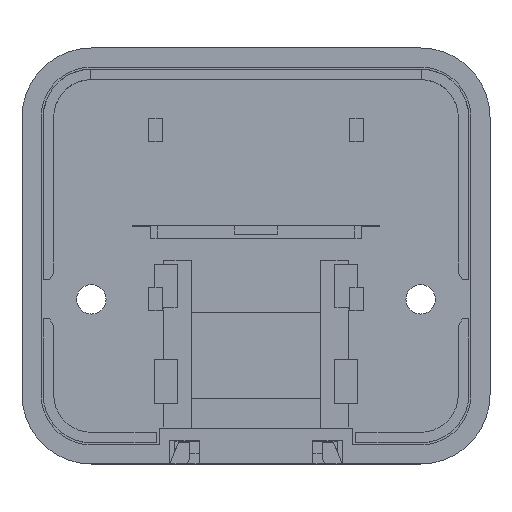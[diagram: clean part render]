
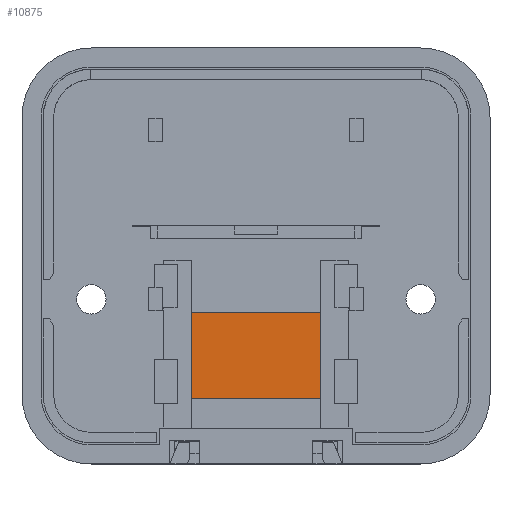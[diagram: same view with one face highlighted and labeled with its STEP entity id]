
A CAD part, top view. The second image highlights one B-rep face of the part: STEP entity #10875.
In plain terms, the highlighted planar face has unit normal (0, 0, 1).
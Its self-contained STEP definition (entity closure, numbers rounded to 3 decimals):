
#3763 = PLANE('',#3764);
#3764 = AXIS2_PLACEMENT_3D('',#3765,#3766,#3767);
#3765 = CARTESIAN_POINT('',(-7.5,-6.5,1.));
#3766 = DIRECTION('',(0.,1.,0.));
#3767 = DIRECTION('',(0.,0.,1.));
#10538 = PLANE('',#10539);
#10539 = AXIS2_PLACEMENT_3D('',#10540,#10541,#10542);
#10540 = CARTESIAN_POINT('',(-7.5,-16.5,1.));
#10541 = DIRECTION('',(0.,1.,0.));
#10542 = DIRECTION('',(0.,0.,1.));
#10553 = EDGE_CURVE('',#10554,#10556,#10558,.T.);
#10554 = VERTEX_POINT('',#10555);
#10555 = CARTESIAN_POINT('',(-7.5,-16.5,1.));
#10556 = VERTEX_POINT('',#10557);
#10557 = CARTESIAN_POINT('',(7.5,-16.5,1.));
#10558 = SURFACE_CURVE('',#10559,(#10563,#10570),.PCURVE_S1.);
#10559 = LINE('',#10560,#10561);
#10560 = CARTESIAN_POINT('',(-7.5,-16.5,1.));
#10561 = VECTOR('',#10562,1.);
#10562 = DIRECTION('',(1.,0.,0.));
#10563 = PCURVE('',#10538,#10564);
#10564 = DEFINITIONAL_REPRESENTATION('',(#10565),#10569);
#10565 = LINE('',#10566,#10567);
#10566 = CARTESIAN_POINT('',(0.,0.));
#10567 = VECTOR('',#10568,1.);
#10568 = DIRECTION('',(0.,1.));
#10569 = ( GEOMETRIC_REPRESENTATION_CONTEXT(2) 
PARAMETRIC_REPRESENTATION_CONTEXT() REPRESENTATION_CONTEXT('2D SPACE',''
  ) );
#10570 = PCURVE('',#10571,#10576);
#10571 = PLANE('',#10572);
#10572 = AXIS2_PLACEMENT_3D('',#10573,#10574,#10575);
#10573 = CARTESIAN_POINT('',(-7.5,-16.5,1.));
#10574 = DIRECTION('',(0.,0.,1.));
#10575 = DIRECTION('',(1.,0.,0.));
#10576 = DEFINITIONAL_REPRESENTATION('',(#10577),#10581);
#10577 = LINE('',#10578,#10579);
#10578 = CARTESIAN_POINT('',(0.,0.));
#10579 = VECTOR('',#10580,1.);
#10580 = DIRECTION('',(1.,0.));
#10581 = ( GEOMETRIC_REPRESENTATION_CONTEXT(2) 
PARAMETRIC_REPRESENTATION_CONTEXT() REPRESENTATION_CONTEXT('2D SPACE',''
  ) );
#10599 = PLANE('',#10600);
#10600 = AXIS2_PLACEMENT_3D('',#10601,#10602,#10603);
#10601 = CARTESIAN_POINT('',(-7.5,-16.5,1.));
#10602 = DIRECTION('',(1.,0.,0.));
#10603 = DIRECTION('',(0.,0.,1.));
#10675 = PLANE('',#10676);
#10676 = AXIS2_PLACEMENT_3D('',#10677,#10678,#10679);
#10677 = CARTESIAN_POINT('',(7.5,-16.5,1.));
#10678 = DIRECTION('',(1.,0.,0.));
#10679 = DIRECTION('',(0.,0.,1.));
#10691 = EDGE_CURVE('',#10554,#10692,#10694,.T.);
#10692 = VERTEX_POINT('',#10693);
#10693 = CARTESIAN_POINT('',(-7.5,-6.5,1.));
#10694 = SURFACE_CURVE('',#10695,(#10699,#10706),.PCURVE_S1.);
#10695 = LINE('',#10696,#10697);
#10696 = CARTESIAN_POINT('',(-7.5,-16.5,1.));
#10697 = VECTOR('',#10698,1.);
#10698 = DIRECTION('',(0.,1.,0.));
#10699 = PCURVE('',#10599,#10700);
#10700 = DEFINITIONAL_REPRESENTATION('',(#10701),#10705);
#10701 = LINE('',#10702,#10703);
#10702 = CARTESIAN_POINT('',(0.,0.));
#10703 = VECTOR('',#10704,1.);
#10704 = DIRECTION('',(0.,-1.));
#10705 = ( GEOMETRIC_REPRESENTATION_CONTEXT(2) 
PARAMETRIC_REPRESENTATION_CONTEXT() REPRESENTATION_CONTEXT('2D SPACE',''
  ) );
#10706 = PCURVE('',#10571,#10707);
#10707 = DEFINITIONAL_REPRESENTATION('',(#10708),#10712);
#10708 = LINE('',#10709,#10710);
#10709 = CARTESIAN_POINT('',(0.,0.));
#10710 = VECTOR('',#10711,1.);
#10711 = DIRECTION('',(0.,1.));
#10712 = ( GEOMETRIC_REPRESENTATION_CONTEXT(2) 
PARAMETRIC_REPRESENTATION_CONTEXT() REPRESENTATION_CONTEXT('2D SPACE',''
  ) );
#10831 = EDGE_CURVE('',#10556,#10832,#10834,.T.);
#10832 = VERTEX_POINT('',#10833);
#10833 = CARTESIAN_POINT('',(7.5,-6.5,1.));
#10834 = SURFACE_CURVE('',#10835,(#10839,#10846),.PCURVE_S1.);
#10835 = LINE('',#10836,#10837);
#10836 = CARTESIAN_POINT('',(7.5,-16.5,1.));
#10837 = VECTOR('',#10838,1.);
#10838 = DIRECTION('',(0.,1.,0.));
#10839 = PCURVE('',#10675,#10840);
#10840 = DEFINITIONAL_REPRESENTATION('',(#10841),#10845);
#10841 = LINE('',#10842,#10843);
#10842 = CARTESIAN_POINT('',(0.,0.));
#10843 = VECTOR('',#10844,1.);
#10844 = DIRECTION('',(0.,-1.));
#10845 = ( GEOMETRIC_REPRESENTATION_CONTEXT(2) 
PARAMETRIC_REPRESENTATION_CONTEXT() REPRESENTATION_CONTEXT('2D SPACE',''
  ) );
#10846 = PCURVE('',#10571,#10847);
#10847 = DEFINITIONAL_REPRESENTATION('',(#10848),#10852);
#10848 = LINE('',#10849,#10850);
#10849 = CARTESIAN_POINT('',(15.,0.));
#10850 = VECTOR('',#10851,1.);
#10851 = DIRECTION('',(0.,1.));
#10852 = ( GEOMETRIC_REPRESENTATION_CONTEXT(2) 
PARAMETRIC_REPRESENTATION_CONTEXT() REPRESENTATION_CONTEXT('2D SPACE',''
  ) );
#10875 = ADVANCED_FACE('',(#10876),#10571,.T.);
#10876 = FACE_BOUND('',#10877,.T.);
#10877 = EDGE_LOOP('',(#10878,#10879,#10880,#10881));
#10878 = ORIENTED_EDGE('',*,*,#10691,.F.);
#10879 = ORIENTED_EDGE('',*,*,#10553,.T.);
#10880 = ORIENTED_EDGE('',*,*,#10831,.T.);
#10881 = ORIENTED_EDGE('',*,*,#10882,.F.);
#10882 = EDGE_CURVE('',#10692,#10832,#10883,.T.);
#10883 = SURFACE_CURVE('',#10884,(#10888,#10895),.PCURVE_S1.);
#10884 = LINE('',#10885,#10886);
#10885 = CARTESIAN_POINT('',(-7.5,-6.5,1.));
#10886 = VECTOR('',#10887,1.);
#10887 = DIRECTION('',(1.,0.,0.));
#10888 = PCURVE('',#10571,#10889);
#10889 = DEFINITIONAL_REPRESENTATION('',(#10890),#10894);
#10890 = LINE('',#10891,#10892);
#10891 = CARTESIAN_POINT('',(0.,10.));
#10892 = VECTOR('',#10893,1.);
#10893 = DIRECTION('',(1.,0.));
#10894 = ( GEOMETRIC_REPRESENTATION_CONTEXT(2) 
PARAMETRIC_REPRESENTATION_CONTEXT() REPRESENTATION_CONTEXT('2D SPACE',''
  ) );
#10895 = PCURVE('',#3763,#10896);
#10896 = DEFINITIONAL_REPRESENTATION('',(#10897),#10901);
#10897 = LINE('',#10898,#10899);
#10898 = CARTESIAN_POINT('',(0.,0.));
#10899 = VECTOR('',#10900,1.);
#10900 = DIRECTION('',(0.,1.));
#10901 = ( GEOMETRIC_REPRESENTATION_CONTEXT(2) 
PARAMETRIC_REPRESENTATION_CONTEXT() REPRESENTATION_CONTEXT('2D SPACE',''
  ) );
